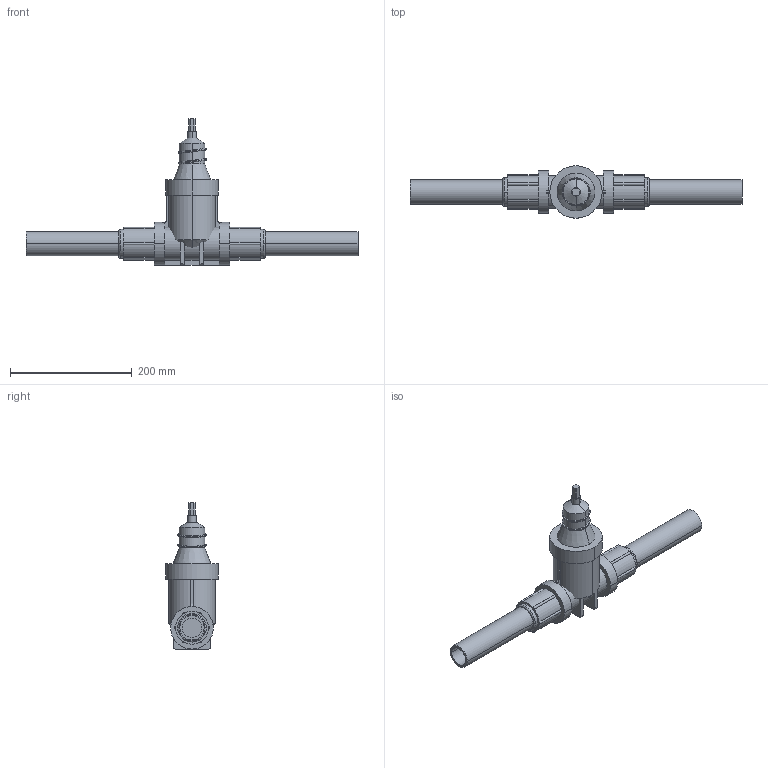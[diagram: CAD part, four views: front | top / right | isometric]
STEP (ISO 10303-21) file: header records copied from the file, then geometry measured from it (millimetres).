
FILE_DESCRIPTION(('STEP AP214'),'1');
FILE_NAME('S:/EK/USER/CAT6/3DHomepage/2670/2670-PN10-DN32.STP','2012-04-25T11:05:56',(' '),(' '),'Spatial InterOp 3D',' ',' ');
FILE_SCHEMA(('automotive_design'));
Length unit declared in the file: millimetre
Products named in the file (36): 3D-Objekt
Bounding box: 545 x 86 x 240 mm (x, y, z)
Volume: 1400594.1 mm3; surface area: 252620.5 mm2
Topology: 36 solids, 36 shells, 200 faces, 386 edges, 258 vertices
Faces by surface type: plane 116, cylinder 62, torus 16, cone 6
Entity records: 7606 total; most frequent: DIRECTION 1044, CARTESIAN_POINT 880, ORIENTED_EDGE 772, AXIS2_PLACEMENT_3D 422, EDGE_CURVE 386, VERTEX_POINT 258, STYLED_ITEM 236, PRESENTATION_STYLE_ASSIGNMENT 236
